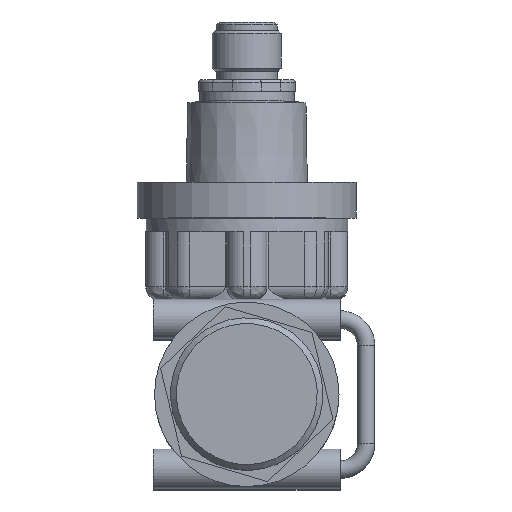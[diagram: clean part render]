
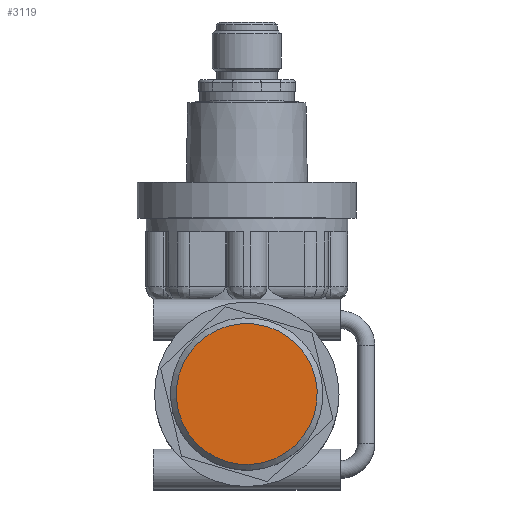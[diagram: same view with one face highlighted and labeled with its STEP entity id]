
A CAD part, top view. The second image highlights one B-rep face of the part: STEP entity #3119.
In plain terms, the highlighted planar face has unit normal (0, 0, 1).
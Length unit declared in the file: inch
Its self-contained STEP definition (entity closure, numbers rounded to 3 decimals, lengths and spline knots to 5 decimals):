
#123=PLANE('',#3537);
#793=FACE_OUTER_BOUND('',#1004,.T.);
#1004=EDGE_LOOP('',(#2700));
#1224=CIRCLE('',#3538,0.4811);
#1498=VERTEX_POINT('',#5772);
#1920=EDGE_CURVE('',#1498,#1498,#1224,.T.);
#2700=ORIENTED_EDGE('',*,*,#1920,.F.);
#3119=ADVANCED_FACE('',(#793),#123,.T.);
#3537=AXIS2_PLACEMENT_3D('',#5771,#4455,#4456);
#3538=AXIS2_PLACEMENT_3D('',#5773,#4457,#4458);
#4455=DIRECTION('center_axis',(0.,0.,
1.));
#4456=DIRECTION('ref_axis',(0.688,-0.725,0.));
#4457=DIRECTION('center_axis',(0.,0.,
-1.));
#4458=DIRECTION('ref_axis',(-0.688,0.725,0.));
#5771=CARTESIAN_POINT('Origin',(0.,0.,
2.26372));
#5772=CARTESIAN_POINT('',(0.33114,-0.34901,2.26372));
#5773=CARTESIAN_POINT('Origin',(0.,0.,
2.26372));
